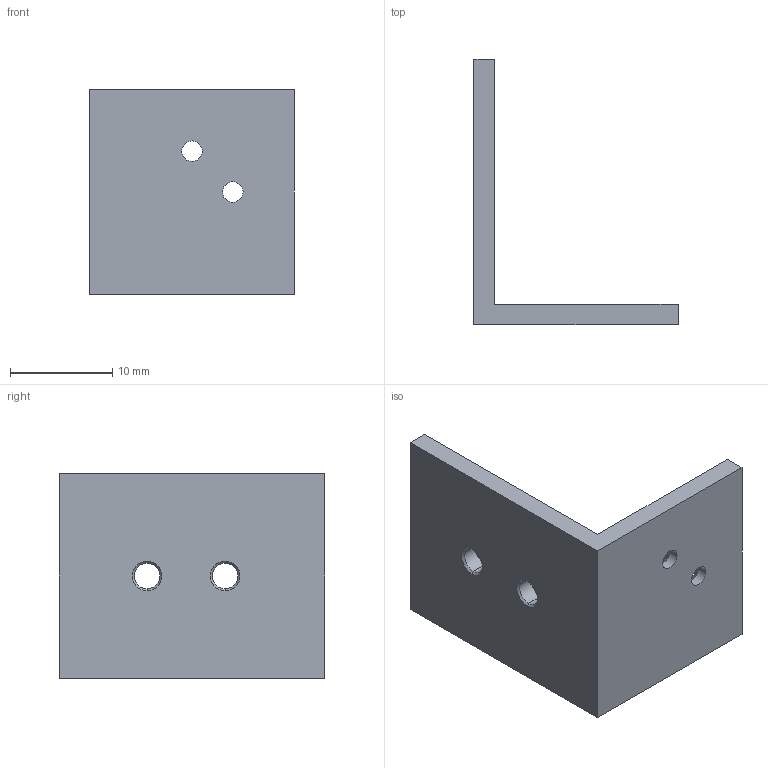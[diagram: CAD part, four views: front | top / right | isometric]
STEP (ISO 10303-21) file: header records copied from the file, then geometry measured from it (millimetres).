
FILE_DESCRIPTION (( 'STEP AP214' ), '1' );
FILE_NAME ('SC15.STEP', '2016-02-27T08:01:11', ( '' ), ( '' ), 'SwSTEP 2.0', 'SolidWorks 2012', '' );
FILE_SCHEMA (( 'AUTOMOTIVE_DESIGN' ));
Length unit declared in the file: millimetre
Products named in the file (1): SC15
Bounding box: 20 x 26 x 20 mm (x, y, z)
Volume: 1718.8 mm3; surface area: 2032.1 mm2
Topology: 1 solids, 1 shells, 28 faces, 70 edges, 44 vertices
Faces by surface type: cone 12, cylinder 8, plane 8
Entity records: 892 total; most frequent: DIRECTION 160, CARTESIAN_POINT 143, ORIENTED_EDGE 140, EDGE_CURVE 70, AXIS2_PLACEMENT_3D 61, VERTEX_POINT 44, VECTOR 38, LINE 38
